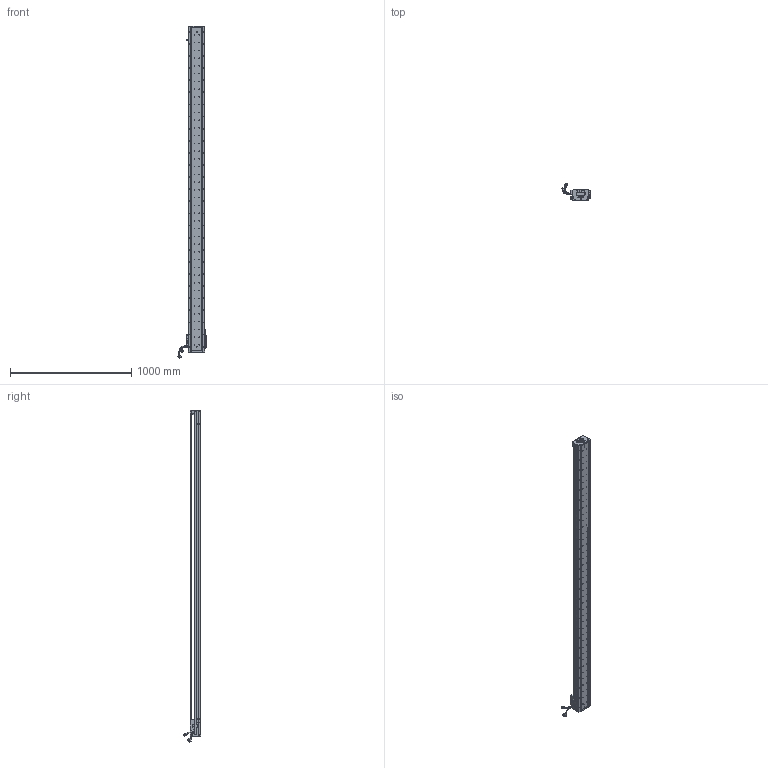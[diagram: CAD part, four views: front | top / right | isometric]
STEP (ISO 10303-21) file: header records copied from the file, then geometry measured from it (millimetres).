
FILE_DESCRIPTION (( 'STEP AP203' ), '1' );
FILE_NAME ('Z1-RY140D-1-L500-B-K.SLDASM_2500.step', '2021-05-17T07:35:27', ( '盈信电脑' ), ( '东莞市道滘镇水果街19号' ), 'SwSTEP 2.0', 'SolidWorks 2016', '' );
FILE_SCHEMA (( 'CONFIG_CONTROL_DESIGN' ));
Length unit declared in the file: millimetre
Products named in the file (36): PBU_SHEET; SEAL; SCREW-M1.6-3; Z-RY140詩湍狟揤裔; 榋妏寠巭燃_暯_M2_2; SEAL-Part-1; SCREW-M1.6-1; HARNESS-Part-2; 140蚥薯蝶輸; COVER; Z1-RY140-L500詩湍100mm遵_2500; 140-Z-臏賑輸盄裔(21遴); LABEL-Part-1; SCALE-Part-2; Z-RY140詩湍奻揤裔; SCALE-Part-1; HOLDER0; 140雄赽晤鎢ん堤盄; SHIELDPLATE; PSLH080_PSLF2; Z1-RY140圉猾敕臏賑輸(21遴); Z1-RY140D-1-L500-B-K.SLDASM_2500; Z1-RY140-L500直线电机模组底座_2500; SCREW-M1.6-2; COVER-Part-1; SCREW-M1.7; 覜茼ん672; HARNESS; LABEL; HARNESS-Part-1; Z-RY140感应器672光电感应片; SCREW-M1.7-1; SCREW-M1.6; SCALE; Z-140詩湍傷裔啣; 080黍杅芛假蚾釱21遴
Assembly tree (41 placements, depth 4):
  Z1-RY140D-1-L500-B-K.SLDASM_2500
    Z1-RY140-L500直线电机模组底座_2500
    Z-RY140感应器672光电感应片
    Z1-RY140圉猾敕臏賑輸(21遴)
    覜茼ん672  x3
    Z1-RY140-L500詩湍100mm遵_2500
    PSLH080_PSLF2
      SCALE
        SCALE-Part-1
        SCALE-Part-2
      HARNESS
        HARNESS-Part-1
        HARNESS-Part-2
      LABEL
        LABEL-Part-1
      COVER
        COVER-Part-1
      SEAL
        SEAL-Part-1
      榋妏寠巭燃_暯_M2_2
      SHIELDPLATE
      SCREW-M1.7
      SCREW-M1.7-1
      PBU_SHEET
      SCREW-M1.6
      SCREW-M1.6-1
      SCREW-M1.6-2
      SCREW-M1.6-3
      HOLDER0
    080黍杅芛假蚾釱21遴
    140-Z-臏賑輸盄裔(21遴)
    Z-140詩湍傷裔啣  x2
    Z-RY140詩湍狟揤裔  x2
    Z-RY140詩湍奻揤裔  x2
    140蚥薯蝶輸  x2
    140雄赽晤鎢ん堤盄
Bounding box: 239.79 x 143.88 x 2740.87 mm (x, y, z)
Volume: 8358895.4 mm3; surface area: 2217648.4 mm2
Topology: 36 solids, 36 shells, 4096 faces, 11182 edges, 7093 vertices
Faces by surface type: cylinder 2224, plane 1372, cone 378, torus 69, bspline 53
Entity records: 130678 total; most frequent: CARTESIAN_POINT 37451, ORIENTED_EDGE 19300, DIRECTION 17678, EDGE_CURVE 9650, AXIS2_PLACEMENT_3D 6552, VERTEX_POINT 6261, LINE 4574, VECTOR 4574
